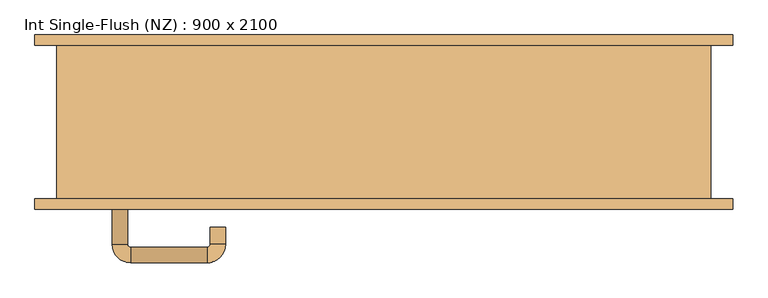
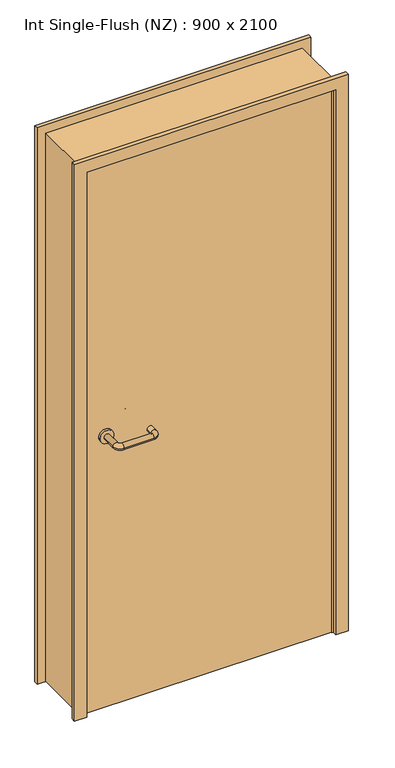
"""IFC4 building model written with IfcOpenShell, lengths in millimetres: door geometry, Int Single-Flush (NZ) : 900 x 2100."""

import ifcopenshell
import ifcopenshell.guid

model = None  # the IFC model being written
_history = None  # IfcOwnerHistory: only IFC2X3 demands one
_inside = {}  # id of a spatial element -> (the spatial element, [elements in it])
_under = {}  # id of a project, library or spatial element -> (it, [spatial elements below it])
_declared = {}  # id of a project -> (the project, [libraries it declares])
_typed = {}  # id of a type object -> (the type object, [elements of that type])
_made_of = {}  # id of a material, layer set ... -> (it, [elements and type objects made of it])


def new_model(schema):
    """Start an empty IFC model of exactly this schema.

    Asked for "IFC4X3", IfcOpenShell would pick the latest addendum, in which some entities
    have other attributes; the version numbers below select the first issue.
    IFC2X3 requires an IfcOwnerHistory on every rooted entity: one is made here for all.
    """
    global model, _history
    if schema == "IFC4X3":
        model = ifcopenshell.file(schema_version=(4, 3, 0, 0))
    else:
        model = ifcopenshell.file(schema=schema)
    _inside.clear()
    _under.clear()
    _declared.clear()
    _typed.clear()
    _made_of.clear()
    _history = None
    if model.schema == "IFC2X3":
        org = make("IfcOrganization", Name="unknown")
        user = make(
            "IfcPersonAndOrganization",
            ThePerson=make("IfcPerson", FamilyName="unknown"),
            TheOrganization=org,
        )
        app = make(
            "IfcApplication",
            ApplicationDeveloper=org,
            Version="unknown",
            ApplicationFullName="unknown",
            ApplicationIdentifier="unknown",
        )
        _history = make(
            "IfcOwnerHistory",
            OwningUser=user,
            OwningApplication=app,
            ChangeAction="ADDED",
            CreationDate=0,
        )
    return model


def make(cls, **values):
    """One entity of the class cls with the attributes given. An attribute that is None is left unset."""
    return model.create_entity(
        cls, **{name: value for name, value in values.items() if value is not None}
    )


def rooted(cls, **values):
    """An entity with a GlobalId (a new one), such as an element, a storey or a relation."""
    return make(cls, GlobalId=ifcopenshell.guid.new(), OwnerHistory=_history, **values)


def si_unit(unit_type, name, prefix=None):
    """IfcSIUnit, for example si_unit("LENGTHUNIT", "METRE", prefix="MILLI")."""
    return make("IfcSIUnit", UnitType=unit_type, Prefix=prefix, Name=name)


def assignment(units):
    """IfcUnitAssignment: the units of a project."""
    return None if units is None else make("IfcUnitAssignment", Units=units)


def point(xyz):
    """IfcCartesianPoint."""
    return None if xyz is None else make("IfcCartesianPoint", Coordinates=xyz)


def direction(xyz):
    """IfcDirection."""
    return None if xyz is None else make("IfcDirection", DirectionRatios=xyz)


def frame(location, z_axis=None, x_axis=None):
    """IfcAxis2Placement3D, a coordinate frame: its origin and axes. An axis left out is left unset."""
    return make(
        "IfcAxis2Placement3D",
        Location=point(location),
        Axis=direction(z_axis),
        RefDirection=direction(x_axis),
    )


def frame_2d(location, x_axis=None):
    """IfcAxis2Placement2D, a coordinate frame in the plane: its origin and x axis."""
    return make(
        "IfcAxis2Placement2D", Location=point(location), RefDirection=direction(x_axis)
    )


def origin():
    """The frame at (0, 0, 0) with its axes left unset."""
    return frame((0.0, 0.0, 0.0))


def place(relative_to, where):
    """IfcLocalPlacement: puts the frame where relative to a parent placement (None: the world)."""
    return make(
        "IfcLocalPlacement", PlacementRelTo=relative_to, RelativePlacement=where
    )


def context(
    kind, dimensions, precision=None, world=None, true_north=None, identifier=None
):
    """IfcGeometricRepresentationContext, for example the 3D "Model" context."""
    return make(
        "IfcGeometricRepresentationContext",
        ContextIdentifier=identifier,
        ContextType=kind,
        CoordinateSpaceDimension=dimensions,
        Precision=precision,
        WorldCoordinateSystem=world,
        TrueNorth=true_north,
    )


def project(units=None, contexts=None):
    """IfcProject with its units and contexts."""
    return rooted(
        "IfcProject",
        Name="project",
        RepresentationContexts=contexts,
        UnitsInContext=assignment(units),
    )


def spatial(cls, under=None, at=None, **own):
    """A site, building, storey or space (cls), placed at a placement, below another one or the project."""
    s = rooted(cls, ObjectPlacement=at, **own)
    if under is not None:
        _under.setdefault(under.id(), (under, []))[1].append(s)
    return s


def polyline(points):
    """IfcPolyline through the points."""
    return make("IfcPolyline", Points=[point(p) for p in points])


def circle_curve(where, radius):
    """IfcCircle in the frame where."""
    return make("IfcCircle", Position=where, Radius=radius)


def ellipse_curve(where, semi_axis1, semi_axis2):
    """IfcEllipse in the frame where."""
    return make(
        "IfcEllipse", Position=where, SemiAxis1=semi_axis1, SemiAxis2=semi_axis2
    )


def trimmed(basis, trim1, trim2, sense, master):
    """IfcTrimmedCurve: the piece of a basis curve between two trims."""
    return make(
        "IfcTrimmedCurve",
        BasisCurve=basis,
        Trim1=trim1,
        Trim2=trim2,
        SenseAgreement=sense,
        MasterRepresentation=master,
    )


def segment(curve, same_sense, transition):
    """IfcCompositeCurveSegment."""
    return make(
        "IfcCompositeCurveSegment",
        Transition=transition,
        SameSense=same_sense,
        ParentCurve=curve,
    )


def composite_curve(segments, self_intersect=None):
    """IfcCompositeCurve: segments joined end to end."""
    return make("IfcCompositeCurve", Segments=segments, SelfIntersect=self_intersect)


def outline(outer, holes=None, kind="AREA"):
    """IfcArbitraryClosedProfileDef: a profile drawn as a closed curve; with holes, ...WithVoids."""
    if holes is None:
        return make("IfcArbitraryClosedProfileDef", ProfileType=kind, OuterCurve=outer)
    return make(
        "IfcArbitraryProfileDefWithVoids",
        ProfileType=kind,
        OuterCurve=outer,
        InnerCurves=holes,
    )


def extrude(swept, where, along, depth):
    """IfcExtrudedAreaSolid: the profile swept, set in the frame where, extruded along a direction by depth."""
    return make(
        "IfcExtrudedAreaSolid",
        SweptArea=swept,
        Position=where,
        ExtrudedDirection=direction(along),
        Depth=depth,
    )


def faces_of(points, faces, orient=None, outer=None):
    """IfcFace entities. A face is a list of loops; a loop is a list of indices into points, from 0.

    orient and outer hold one flag for each loop. By default every Orientation is true, the
    first loop of a face is its IfcFaceOuterBound and the others are IfcFaceBound.
    """
    made = []
    for i, loops in enumerate(faces):
        bounds = []
        for j, loop in enumerate(loops):
            is_outer = j == 0 if outer is None else outer[i][j]
            bounds.append(
                make(
                    "IfcFaceOuterBound" if is_outer else "IfcFaceBound",
                    Bound=make("IfcPolyLoop", Polygon=[points[k] for k in loop]),
                    Orientation=True if orient is None else orient[i][j],
                )
            )
        made.append(make("IfcFace", Bounds=bounds))
    return made


def faceted_brep(points, faces, orient=None, outer=None, voids=None):
    """IfcFacetedBrep: a solid bounded by flat faces; with voids (closed shells), ...WithVoids."""
    shared = [point(p) for p in points]
    hull = make("IfcClosedShell", CfsFaces=faces_of(shared, faces, orient, outer))
    if voids is None:
        return make("IfcFacetedBrep", Outer=hull)
    return make(
        "IfcFacetedBrepWithVoids",
        Outer=hull,
        Voids=[
            make(cls, CfsFaces=faces_of(shared, fs, o, b)) for cls, fs, o, b in voids
        ],
    )


def shape(context_of_items, identifier, shape_type, items):
    """IfcShapeRepresentation: the items that make up one representation, for example the "Body"."""
    return make(
        "IfcShapeRepresentation",
        ContextOfItems=context_of_items,
        RepresentationIdentifier=identifier,
        RepresentationType=shape_type,
        Items=items,
    )


def source(mapping_origin, context_of_items, identifier, shape_type, items):
    """IfcRepresentationMap: a shape defined once, which mapped items show again and again."""
    return make(
        "IfcRepresentationMap",
        MappingOrigin=mapping_origin,
        MappedRepresentation=shape(context_of_items, identifier, shape_type, items),
    )


def transform(
    local_origin,
    x_axis=None,
    y_axis=None,
    z_axis=None,
    scale=None,
    scale2=None,
    scale3=None,
    uniform=True,
):
    """IfcCartesianTransformationOperator3D, or its non-uniform kind. x_axis, y_axis, z_axis: its Axis1, 2, 3."""
    if uniform:
        return make(
            "IfcCartesianTransformationOperator3D",
            Axis1=direction(x_axis),
            Axis2=direction(y_axis),
            LocalOrigin=point(local_origin),
            Scale=scale,
            Axis3=direction(z_axis),
        )
    return make(
        "IfcCartesianTransformationOperator3DnonUniform",
        Axis1=direction(x_axis),
        Axis2=direction(y_axis),
        LocalOrigin=point(local_origin),
        Scale=scale,
        Axis3=direction(z_axis),
        Scale2=scale2,
        Scale3=scale3,
    )


def mapped(mapping_source, mapping_target):
    """IfcMappedItem: shows the shape of a source again, moved by a transform."""
    return make(
        "IfcMappedItem", MappingSource=mapping_source, MappingTarget=mapping_target
    )


def made_of(thing, what):
    """Note that an element or type object is made of a material, layer set ...; save() writes the relation."""
    if what is not None:
        _made_of.setdefault(what.id(), (what, []))[1].append(thing)
    return thing


def element(
    cls,
    number,
    at=None,
    inside=None,
    cuts=None,
    type_object=None,
    material=None,
    context=None,
    identifier="Body",
    shape_type=None,
    held_by="IfcProductDefinitionShape",
    body=None,
    shapes=None,
    **own,
):
    """One element of the class cls, such as IfcWall. Its Tag is "e" and its number.

    at: its placement. inside: the storey or other place that contains it. cuts: it is an
    opening in that element (IfcRelVoidsElement). A single representation is given by context,
    identifier, shape_type and body (its items); several are given by shapes. held_by: the class
    of the entity that holds the representations. save() writes the other relations.
    """
    e = rooted(cls, Tag="e%d" % number, ObjectPlacement=at, **own)
    if body is not None:
        shapes = [shape(context, identifier, shape_type, body)]
    if shapes is not None:
        e.Representation = make(held_by, Representations=shapes)
    if inside is not None:
        _inside.setdefault(inside.id(), (inside, []))[1].append(e)
    if cuts is not None:
        rooted(
            "IfcRelVoidsElement", RelatingBuildingElement=cuts, RelatedOpeningElement=e
        )
    if type_object is not None:
        _typed.setdefault(type_object.id(), (type_object, []))[1].append(e)
    return made_of(e, material)


def aggregate(whole, parts):
    """IfcRelAggregates: a whole, such as a stair, and the parts it consists of."""
    return rooted("IfcRelAggregates", RelatingObject=whole, RelatedObjects=parts)


def save(model, path):
    """Write the relations noted so far, then the file.

    IfcRelAggregates (storeys below a building ...), IfcRelContainedInSpatialStructure (elements
    in a storey), IfcRelDefinesByType, IfcRelAssociatesMaterial and IfcRelDeclares: one each for
    every whole, place, type object, material and project.
    """
    for whole, parts in _under.values():
        aggregate(whole, parts)
    for where, things in _inside.values():
        rooted(
            "IfcRelContainedInSpatialStructure",
            RelatedElements=things,
            RelatingStructure=where,
        )
    for kind, things in _typed.values():
        rooted("IfcRelDefinesByType", RelatedObjects=things, RelatingType=kind)
    for what, things in _made_of.values():
        rooted("IfcRelAssociatesMaterial", RelatedObjects=things, RelatingMaterial=what)
    for by, libraries in _declared.values():
        rooted("IfcRelDeclares", RelatingContext=by, RelatedDefinitions=libraries)
    model.write(path)


def plane_surface(at):
    """IfcPlane: the flat surface through the origin of the frame at, square to its z axis."""
    return make("IfcPlane", Position=at)


def cylinder_surface(at, radius):
    """IfcCylindricalSurface: all points at the distance radius from the z axis of the frame at."""
    return make("IfcCylindricalSurface", Position=at, Radius=radius)


def revolved_surface(curve, axis_point, axis_direction):
    """IfcSurfaceOfRevolution: the curve turned about the line through axis_point along axis_direction."""
    return make(
        "IfcSurfaceOfRevolution",
        SweptCurve=make("IfcArbitraryOpenProfileDef", ProfileType="CURVE", Curve=curve),
        AxisPosition=make("IfcAxis1Placement", Location=point(axis_point), Axis=direction(axis_direction)),
    )


def advanced_brep(points, edges, surfaces, faces):
    """IfcAdvancedBrep: a solid bounded by faces that lie on surfaces and meet in shared edges.

    An edge is (start, end): straight between two places in points (the first is 0);
    or (start, end, curve); or (start, end, curve, False) where it runs against its curve.
    A face is (place in surfaces, loops), or (place, loops, False) where it looks against
    its surface's normal. A loop lists edges by number (the first is 1), with a minus sign
    where the edge is run from its end to its start. The first loop is the outer one.
    """
    corners = [point(p) for p in points]
    vertices = [make("IfcVertexPoint", VertexGeometry=c) for c in corners]
    made = []
    for start, end, *more in edges:
        made.append(
            make(
                "IfcEdgeCurve",
                EdgeStart=vertices[start],
                EdgeEnd=vertices[end],
                EdgeGeometry=more[0] if more else make("IfcPolyline", Points=[corners[start], corners[end]]),
                SameSense=more[1] if len(more) > 1 else True,
            )
        )
    hull = []
    for where, loops, *sense in faces:
        bounds = []
        for j, loop in enumerate(loops):
            ring = [make("IfcOrientedEdge", EdgeElement=made[abs(k) - 1], Orientation=k > 0) for k in loop]
            bounds.append(
                make(
                    "IfcFaceOuterBound" if j == 0 else "IfcFaceBound",
                    Bound=make("IfcEdgeLoop", EdgeList=ring),
                    Orientation=True,
                )
            )
        hull.append(make("IfcAdvancedFace", Bounds=bounds, FaceSurface=surfaces[where], SameSense=sense[0] if sense else True))
    return make("IfcAdvancedBrep", Outer=make("IfcClosedShell", CfsFaces=hull))


def int_single_flush_nz_900_x_2100_2a598139(model_context):
    return source(origin(), model_context, "Body", "SolidModel", [
        extrude(outline(polyline([(2119.0, -544.0), (0.0, -544.0), (0.0, -525.0), (2100.0, -525.0), (2100.0, 375.0), (0.0, 375.0), (0.0, 394.0), (2119.0, 394.0), (2119.0, -544.0)])), frame((0.0, -110.0, 0.0), z_axis=(0.0, 1.0, 0.0), x_axis=(0.0, 0.0, 1.0)), (0.0, 0.0, 1.0), 220.0),
        faceted_brep([(-525.0, -69.0, 0.0), (-525.0, -24.0, 0.0), (-506.6719264, -24.0, 0.0), (-506.6719264, -69.0, 0.0), (-506.6719264, -69.0, 2081.6719264), (-525.0, -69.0, 2100.0), (-506.6719264, -24.0, 2081.6719264), (-525.0, -24.0, 2100.0), (375.0, -69.0, 0.0), (356.6719264, -69.0, 0.0), (356.6719264, -24.0, 0.0), (375.0, -24.0, 0.0), (375.0, -69.0, 2100.0), (375.0, -24.0, 2100.0), (356.6719264, -24.0, 2081.6719264), (356.6719264, -69.0, 2081.6719264)], [[[0, 1, 2, 3]], [[3, 4, 5, 0]], [[2, 6, 4, 3]], [[1, 7, 6, 2]], [[0, 5, 7, 1]], [[8, 9, 10, 11]], [[12, 8, 11, 13]], [[13, 11, 10, 14]], [[14, 10, 9, 15]], [[15, 9, 8, 12]], [[4, 15, 12, 5]], [[6, 14, 15, 4]], [[7, 13, 14, 6]], [[5, 12, 13, 7]]]),
        extrude(outline(polyline([(2150.0, 425.0), (2150.0, -575.0), (0.0, -575.0), (0.0, -530.0), (2105.0, -530.0), (2105.0, 380.0), (0.0, 380.0), (0.0, 425.0), (2150.0, 425.0)])), frame((0.0, -125.0, 0.0), z_axis=(0.0, 1.0, 0.0), x_axis=(0.0, 0.0, 1.0)), (0.0, 0.0, 1.0), 15.0),
        extrude(outline(polyline([(2150.0, -575.0), (0.0, -575.0), (0.0, -530.0), (2105.0, -530.0), (2105.0, 380.0), (0.0, 380.0), (0.0, 425.0), (2150.0, 425.0), (2150.0, -575.0)])), frame((0.0, 110.0, 0.0), z_axis=(0.0, 1.0, 0.0), x_axis=(0.0, 0.0, 1.0)), (0.0, 0.0, 1.0), 15.0),
        advanced_brep(
        [(-464.0, -62.0160352, 1053.0), (-442.0, -62.0160352, 1053.0), (-442.0, -7.0160352, 1053.0), (-464.0, -7.0160352, 1053.0), (-438.0, -3.0160352, 1053.0), (-438.0, 18.9839648, 1053.0), (-328.0, -3.0160352, 1053.0), (-328.0, 18.9839648, 1053.0), (-324.0, -7.0160352, 1053.0), (-302.0, -7.0160352, 1053.0), (-302.0, -32.0160352, 1053.0), (-324.0, -32.0160352, 1053.0)],
        [
            (0, 1, circle_curve(frame((-453.0, -62.0160352, 1053.0), z_axis=(0.0, -1.0, 0.0), x_axis=(1.0, 0.0, 0.0)), 11.0)),
            (1, 0, circle_curve(frame((-453.0, -62.0160352, 1053.0), z_axis=(0.0, -1.0, 0.0), x_axis=(1.0, 0.0, 0.0)), 11.0)),
            (1, 2),
            (2, 3, circle_curve(frame((-453.0, -7.0160352, 1053.0), z_axis=(0.0, -1.0, 0.0), x_axis=(1.0, 0.0, 0.0)), 11.0)),
            (3, 0),
            (3, 2, circle_curve(frame((-453.0, -7.0160352, 1053.0), z_axis=(0.0, -1.0, 0.0), x_axis=(1.0, 0.0, 0.0)), 11.0)),
            (4, 5, circle_curve(frame((-438.0, 7.9839648, 1053.0), z_axis=(-1.0, 0.0, 0.0), x_axis=(0.0, -1.0, 0.0)), 11.0)),
            (5, 3, circle_curve(frame((-438.0, -7.0160352, 1053.0), z_axis=(0.0, 0.0, 1.0), x_axis=(-1.0, 0.0, 0.0)), 26.0)),
            (2, 4, circle_curve(frame((-438.0, -7.0160352, 1053.0), z_axis=(0.0, 0.0, -1.0), x_axis=(-1.0, 0.0, 0.0)), 4.0)),
            (5, 4, circle_curve(frame((-438.0, 7.9839648, 1053.0), z_axis=(-1.0, 0.0, 0.0), x_axis=(0.0, -1.0, 0.0)), 11.0)),
            (4, 6),
            (6, 7, circle_curve(frame((-328.0, 7.9839648, 1053.0), z_axis=(-1.0, 0.0, 0.0), x_axis=(0.0, -1.0, 0.0)), 11.0)),
            (7, 5),
            (7, 6, circle_curve(frame((-328.0, 7.9839648, 1053.0), z_axis=(-1.0, 0.0, 0.0), x_axis=(0.0, -1.0, 0.0)), 11.0)),
            (8, 9, circle_curve(frame((-313.0, -7.0160352, 1053.0), z_axis=(0.0, 1.0, 0.0), x_axis=(-1.0, 0.0, 0.0)), 11.0)),
            (9, 7, circle_curve(frame((-328.0, -7.0160352, 1053.0), z_axis=(0.0, 0.0, 1.0), x_axis=(0.0, 1.0, 0.0)), 26.0)),
            (6, 8, circle_curve(frame((-328.0, -7.0160352, 1053.0), z_axis=(0.0, 0.0, -1.0), x_axis=(0.0, 1.0, 0.0)), 4.0)),
            (9, 8, circle_curve(frame((-313.0, -7.0160352, 1053.0), z_axis=(0.0, 1.0, 0.0), x_axis=(-1.0, 0.0, 0.0)), 11.0)),
            (10, 11, circle_curve(frame((-313.0, -32.0160352, 1053.0), z_axis=(0.0, -1.0, 0.0), x_axis=(-1.0, 0.0, 0.0)), 11.0)),
            (11, 10, circle_curve(frame((-313.0, -32.0160352, 1053.0), z_axis=(0.0, -1.0, 0.0), x_axis=(-1.0, 0.0, 0.0)), 11.0)),
            (8, 11),
            (10, 9),
        ],
        [
            plane_surface(frame((-464.0, -62.0160352, 1053.0), z_axis=(0.0, -1.0, 0.0), x_axis=(0.0, 0.0, -1.0))),
            cylinder_surface(frame((-453.0, -62.0160352, 1053.0), z_axis=(0.0, -1.0, 0.0), x_axis=(1.0, 0.0, 0.0)), 11.0),
            revolved_surface(trimmed(ellipse_curve(frame((-453.0, -7.0160352, 1053.0), z_axis=(0.0, 1.0, 0.0), x_axis=(1.0, 0.0, 0.0)), 11.0, 11.0), [point((-464.0, -7.0160352, 1053.0))], [point((-442.0, -7.0160352, 1053.0))], True, "CARTESIAN"), (-438.0, -7.0160352, 1053.0), (0.0, 0.0, 1.0)),
            revolved_surface(trimmed(ellipse_curve(frame((-453.0, -7.0160352, 1053.0), z_axis=(0.0, 1.0, 0.0), x_axis=(1.0, 0.0, 0.0)), 11.0, 11.0), [point((-442.0, -7.0160352, 1053.0))], [point((-464.0, -7.0160352, 1053.0))], True, "CARTESIAN"), (-438.0, -7.0160352, 1053.0), (0.0, 0.0, 1.0)),
            cylinder_surface(frame((-438.0, 7.9839648, 1053.0), z_axis=(-1.0, 0.0, 0.0), x_axis=(0.0, -1.0, 0.0)), 11.0),
            revolved_surface(trimmed(ellipse_curve(frame((-328.0, 7.9839648, 1053.0), z_axis=(1.0, 0.0, 0.0), x_axis=(0.0, -1.0, 0.0)), 11.0, 11.0), [point((-328.0, 18.9839648, 1053.0))], [point((-328.0, -3.0160352, 1053.0))], True, "CARTESIAN"), (-328.0, -7.0160352, 1053.0), (0.0, 0.0, 1.0)),
            revolved_surface(trimmed(ellipse_curve(frame((-328.0, 7.9839648, 1053.0), z_axis=(1.0, 0.0, 0.0), x_axis=(0.0, -1.0, 0.0)), 11.0, 11.0), [point((-328.0, -3.0160352, 1053.0))], [point((-328.0, 18.9839648, 1053.0))], True, "CARTESIAN"), (-328.0, -7.0160352, 1053.0), (0.0, 0.0, 1.0)),
            plane_surface(frame((-324.0, -32.0160352, 1053.0), z_axis=(0.0, -1.0, 0.0), x_axis=(0.0, 0.0, 1.0))),
            cylinder_surface(frame((-313.0, -7.0160352, 1053.0), z_axis=(0.0, 1.0, 0.0), x_axis=(-1.0, 0.0, 0.0)), 11.0),
        ],
        [
            (0, [[1, 2]]),
            (1, [[3, 4, 5, -2]]),
            (1, [[-5, 6, -3, -1]]),
            (2, [[7, 8, -4, 9]]),
            (3, [[10, -9, -6, -8]]),
            (4, [[11, 12, 13, -7]]),
            (4, [[-13, 14, -11, -10]]),
            (5, [[15, 16, -12, 17]]),
            (6, [[18, -17, -14, -16]]),
            (7, [[19, 20]]),
            (8, [[21, -19, 22, -15]]),
            (8, [[-22, -20, -21, -18]]),
        ],
    ),
        extrude(outline(composite_curve([segment(trimmed(circle_curve(frame_2d((1053.0, -453.0)), 25.0), [point((1053.0, -478.0))], [point((1053.0, -428.0))], False, "CARTESIAN"), True, "CONTINUOUS"), segment(trimmed(circle_curve(frame_2d((1053.0, -453.0)), 25.0), [point((1053.0, -428.0))], [point((1053.0, -478.0))], False, "CARTESIAN"), True, "CONTINUOUS")], self_intersect=False)), frame((0.0, -72.0, 0.0), z_axis=(0.0, 1.0, 0.0), x_axis=(0.0, 0.0, 1.0)), (0.0, 0.0, 1.0), 9.9839648),
        advanced_brep(
        [(-442.0, -120.0, 1053.0), (-464.0, -120.0, 1053.0), (-464.0, -175.0, 1053.0), (-442.0, -175.0, 1053.0), (-438.0, -201.0, 1053.0), (-438.0, -179.0, 1053.0), (-328.0, -201.0, 1053.0), (-328.0, -179.0, 1053.0), (-302.0, -175.0, 1053.0), (-324.0, -175.0, 1053.0), (-324.0, -150.0, 1053.0), (-302.0, -150.0, 1053.0)],
        [
            (0, 1, circle_curve(frame((-453.0, -120.0, 1053.0), z_axis=(0.0, 1.0, 0.0), x_axis=(-1.0, 0.0, 0.0)), 11.0)),
            (1, 0, circle_curve(frame((-453.0, -120.0, 1053.0), z_axis=(0.0, 1.0, 0.0), x_axis=(-1.0, 0.0, 0.0)), 11.0)),
            (1, 2),
            (2, 3, circle_curve(frame((-453.0, -175.0, 1053.0), z_axis=(0.0, 1.0, 0.0), x_axis=(-1.0, 0.0, 0.0)), 11.0)),
            (3, 0),
            (3, 2, circle_curve(frame((-453.0, -175.0, 1053.0), z_axis=(0.0, 1.0, 0.0), x_axis=(-1.0, 0.0, 0.0)), 11.0)),
            (4, 5, circle_curve(frame((-438.0, -190.0, 1053.0), z_axis=(-1.0, 0.0, 0.0), x_axis=(0.0, -1.0, 0.0)), 11.0)),
            (5, 3, circle_curve(frame((-438.0, -175.0, 1053.0), z_axis=(0.0, 0.0, -1.0), x_axis=(-1.0, 0.0, 0.0)), 4.0)),
            (2, 4, circle_curve(frame((-438.0, -175.0, 1053.0), z_axis=(0.0, 0.0, 1.0), x_axis=(-1.0, 0.0, 0.0)), 26.0)),
            (5, 4, circle_curve(frame((-438.0, -190.0, 1053.0), z_axis=(-1.0, 0.0, 0.0), x_axis=(0.0, -1.0, 0.0)), 11.0)),
            (4, 6),
            (6, 7, circle_curve(frame((-328.0, -190.0, 1053.0), z_axis=(-1.0, 0.0, 0.0), x_axis=(0.0, -1.0, 0.0)), 11.0)),
            (7, 5),
            (7, 6, circle_curve(frame((-328.0, -190.0, 1053.0), z_axis=(-1.0, 0.0, 0.0), x_axis=(0.0, -1.0, 0.0)), 11.0)),
            (8, 9, circle_curve(frame((-313.0, -175.0, 1053.0), z_axis=(0.0, -1.0, 0.0), x_axis=(1.0, 0.0, 0.0)), 11.0)),
            (9, 7, circle_curve(frame((-328.0, -175.0, 1053.0), z_axis=(0.0, 0.0, -1.0), x_axis=(0.0, -1.0, 0.0)), 4.0)),
            (6, 8, circle_curve(frame((-328.0, -175.0, 1053.0), z_axis=(0.0, 0.0, 1.0), x_axis=(0.0, -1.0, 0.0)), 26.0)),
            (9, 8, circle_curve(frame((-313.0, -175.0, 1053.0), z_axis=(0.0, -1.0, 0.0), x_axis=(1.0, 0.0, 0.0)), 11.0)),
            (10, 11, circle_curve(frame((-313.0, -150.0, 1053.0), z_axis=(0.0, 1.0, 0.0), x_axis=(1.0, 0.0, 0.0)), 11.0)),
            (11, 10, circle_curve(frame((-313.0, -150.0, 1053.0), z_axis=(0.0, 1.0, 0.0), x_axis=(1.0, 0.0, 0.0)), 11.0)),
            (8, 11),
            (10, 9),
        ],
        [
            plane_surface(frame((-464.0, -120.0, 1053.0), z_axis=(0.0, 1.0, 0.0), x_axis=(0.0, 0.0, 1.0))),
            cylinder_surface(frame((-453.0, -120.0, 1053.0), z_axis=(0.0, 1.0, 0.0), x_axis=(-1.0, 0.0, 0.0)), 11.0),
            revolved_surface(trimmed(ellipse_curve(frame((-453.0, -175.0, 1053.0), z_axis=(0.0, -1.0, 0.0), x_axis=(-1.0, 0.0, 0.0)), 11.0, 11.0), [point((-442.0, -175.0, 1053.0))], [point((-464.0, -175.0, 1053.0))], True, "CARTESIAN"), (-438.0, -175.0, 1053.0), (0.0, 0.0, -1.0)),
            revolved_surface(trimmed(ellipse_curve(frame((-453.0, -175.0, 1053.0), z_axis=(0.0, -1.0, 0.0), x_axis=(-1.0, 0.0, 0.0)), 11.0, 11.0), [point((-464.0, -175.0, 1053.0))], [point((-442.0, -175.0, 1053.0))], True, "CARTESIAN"), (-438.0, -175.0, 1053.0), (0.0, 0.0, -1.0)),
            cylinder_surface(frame((-438.0, -190.0, 1053.0), z_axis=(-1.0, 0.0, 0.0), x_axis=(0.0, -1.0, 0.0)), 11.0),
            revolved_surface(trimmed(ellipse_curve(frame((-328.0, -190.0, 1053.0), z_axis=(1.0, 0.0, 0.0), x_axis=(0.0, -1.0, 0.0)), 11.0, 11.0), [point((-328.0, -179.0, 1053.0))], [point((-328.0, -201.0, 1053.0))], True, "CARTESIAN"), (-328.0, -175.0, 1053.0), (0.0, 0.0, -1.0)),
            revolved_surface(trimmed(ellipse_curve(frame((-328.0, -190.0, 1053.0), z_axis=(1.0, 0.0, 0.0), x_axis=(0.0, -1.0, 0.0)), 11.0, 11.0), [point((-328.0, -201.0, 1053.0))], [point((-328.0, -179.0, 1053.0))], True, "CARTESIAN"), (-328.0, -175.0, 1053.0), (0.0, 0.0, -1.0)),
            plane_surface(frame((-324.0, -150.0, 1053.0), z_axis=(0.0, 1.0, 0.0), x_axis=(0.0, 0.0, -1.0))),
            cylinder_surface(frame((-313.0, -175.0, 1053.0), z_axis=(0.0, -1.0, 0.0), x_axis=(1.0, 0.0, 0.0)), 11.0),
        ],
        [
            (0, [[1, 2]]),
            (1, [[3, 4, 5, -2]]),
            (1, [[-5, 6, -3, -1]]),
            (2, [[7, 8, -4, 9]]),
            (3, [[10, -9, -6, -8]]),
            (4, [[11, 12, 13, -7]]),
            (4, [[-13, 14, -11, -10]]),
            (5, [[15, 16, -12, 17]]),
            (6, [[18, -17, -14, -16]]),
            (7, [[19, 20]]),
            (8, [[21, -19, 22, -15]]),
            (8, [[-22, -20, -21, -18]]),
        ],
    ),
        extrude(outline(composite_curve([segment(trimmed(circle_curve(frame_2d((1053.0, -453.0)), 25.0), [point((1053.0, -428.0))], [point((1053.0, -478.0))], False, "CARTESIAN"), True, "CONTINUOUS"), segment(trimmed(circle_curve(frame_2d((1053.0, -453.0)), 25.0), [point((1053.0, -478.0))], [point((1053.0, -428.0))], False, "CARTESIAN"), True, "CONTINUOUS")], self_intersect=False)), frame((0.0, -120.0, 0.0), z_axis=(0.0, 1.0, 0.0), x_axis=(0.0, 0.0, 1.0)), (0.0, 0.0, 1.0), 10.0),
        extrude(outline(polyline([(372.0, -72.0), (372.0, -110.0), (-528.0, -110.0), (-528.0, -72.0), (372.0, -72.0)])), frame((0.0, 0.0, 3.0), z_axis=(0.0, 0.0, 1.0), x_axis=(1.0, 0.0, 0.0)), (0.0, 0.0, 1.0), 2094.0),
    ])


if __name__ == "__main__":
    model = new_model("IFC4")
    model_context = context("Model", 3, world=origin())
    ifc_project = project(units=[si_unit("LENGTHUNIT", "METRE", prefix="MILLI")], contexts=[model_context])
    site = spatial("IfcSite", under=ifc_project)
    building = spatial("IfcBuilding", under=site)
    placement = place(None, origin())
    int_single_flush_nz_900_x_2100_shape = int_single_flush_nz_900_x_2100_2a598139(model_context)
    element("IfcDoor", 1, ObjectType="Int Single-Flush (NZ) : 900 x 2100", at=placement, inside=building, context=model_context, shape_type="MappedRepresentation", body=[
        mapped(int_single_flush_nz_900_x_2100_shape, transform((0.0, 0.0, 0.0), x_axis=(1.0, 0.0, 0.0), y_axis=(0.0, 1.0, 0.0), z_axis=(0.0, 0.0, 1.0))),
    ])
    save(model, "model.ifc")
